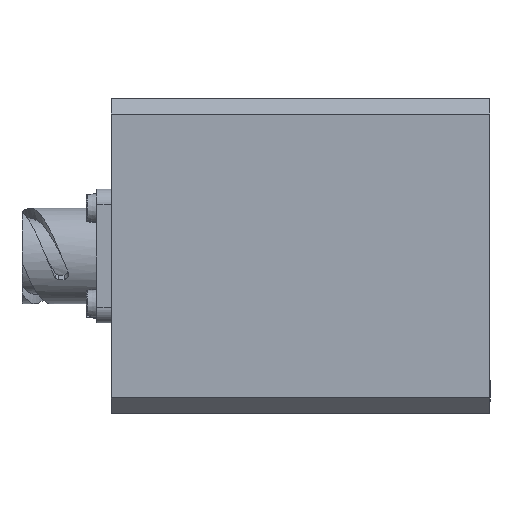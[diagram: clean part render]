
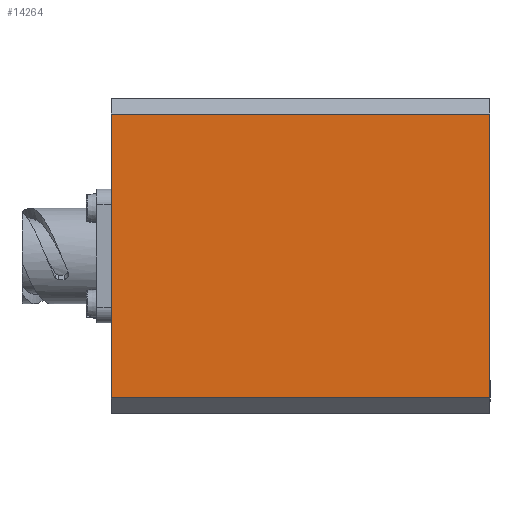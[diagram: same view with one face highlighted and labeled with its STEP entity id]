
A CAD part, front view. The second image highlights one B-rep face of the part: STEP entity #14264.
In plain terms, the highlighted planar face has unit normal (0, -1, 0).
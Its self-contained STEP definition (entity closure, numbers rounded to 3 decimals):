
#450 = VECTOR ( 'NONE', #13642, 1000. ) ;
#778 = ORIENTED_EDGE ( 'NONE', *, *, #20671, .F. ) ;
#1367 = ORIENTED_EDGE ( 'NONE', *, *, #12445, .F. ) ;
#2433 = VECTOR ( 'NONE', #5661, 1000. ) ;
#2555 = CARTESIAN_POINT ( 'NONE',  ( 36., -30., 30. ) ) ;
#2587 = FACE_OUTER_BOUND ( 'NONE', #5566, .T. ) ;
#2722 = EDGE_CURVE ( 'NONE', #16300, #21419, #17686, .T. ) ;
#3612 = CARTESIAN_POINT ( 'NONE',  ( -36., -30., -27. ) ) ;
#4341 = VECTOR ( 'NONE', #11433, 1000. ) ;
#4554 = VECTOR ( 'NONE', #9305, 1000. ) ;
#4872 = LINE ( 'NONE', #21394, #4341 ) ;
#5566 = EDGE_LOOP ( 'NONE', ( #15030, #5946, #1367, #778 ) ) ;
#5661 = DIRECTION ( 'NONE',  ( 0., 0., -1. ) ) ;
#5946 = ORIENTED_EDGE ( 'NONE', *, *, #2722, .T. ) ;
#6108 = CARTESIAN_POINT ( 'NONE',  ( 36., -30., 30. ) ) ;
#6128 = EDGE_CURVE ( 'NONE', #7204, #16300, #15231, .T. ) ;
#7204 = VERTEX_POINT ( 'NONE', #11893 ) ;
#7731 = PLANE ( 'NONE',  #13312 ) ;
#7806 = DIRECTION ( 'NONE',  ( 0., 0., 1. ) ) ;
#9052 = LINE ( 'NONE', #2555, #4554 ) ;
#9305 = DIRECTION ( 'NONE',  ( 0., 0., -1. ) ) ;
#11433 = DIRECTION ( 'NONE',  ( 1., 0., 0. ) ) ;
#11893 = CARTESIAN_POINT ( 'NONE',  ( -36., -30., 27. ) ) ;
#12445 = EDGE_CURVE ( 'NONE', #12744, #21419, #9052, .T. ) ;
#12744 = VERTEX_POINT ( 'NONE', #17091 ) ;
#13312 = AXIS2_PLACEMENT_3D ( 'NONE', #6108, #17808, #7806 ) ;
#13642 = DIRECTION ( 'NONE',  ( 1., 0., 0. ) ) ;
#14264 = ADVANCED_FACE ( 'NONE', ( #2587 ), #7731, .F. ) ;
#15030 = ORIENTED_EDGE ( 'NONE', *, *, #6128, .T. ) ;
#15231 = LINE ( 'NONE', #15655, #2433 ) ;
#15296 = CARTESIAN_POINT ( 'NONE',  ( 36., -30., -27. ) ) ;
#15655 = CARTESIAN_POINT ( 'NONE',  ( -36., -30., 30. ) ) ;
#16300 = VERTEX_POINT ( 'NONE', #18147 ) ;
#17091 = CARTESIAN_POINT ( 'NONE',  ( 36., -30., 27. ) ) ;
#17686 = LINE ( 'NONE', #3612, #450 ) ;
#17808 = DIRECTION ( 'NONE',  ( 0., 1., 0. ) ) ;
#18147 = CARTESIAN_POINT ( 'NONE',  ( -36., -30., -27. ) ) ;
#20671 = EDGE_CURVE ( 'NONE', #7204, #12744, #4872, .T. ) ;
#21394 = CARTESIAN_POINT ( 'NONE',  ( -36., -30., 27. ) ) ;
#21419 = VERTEX_POINT ( 'NONE', #15296 ) ;
